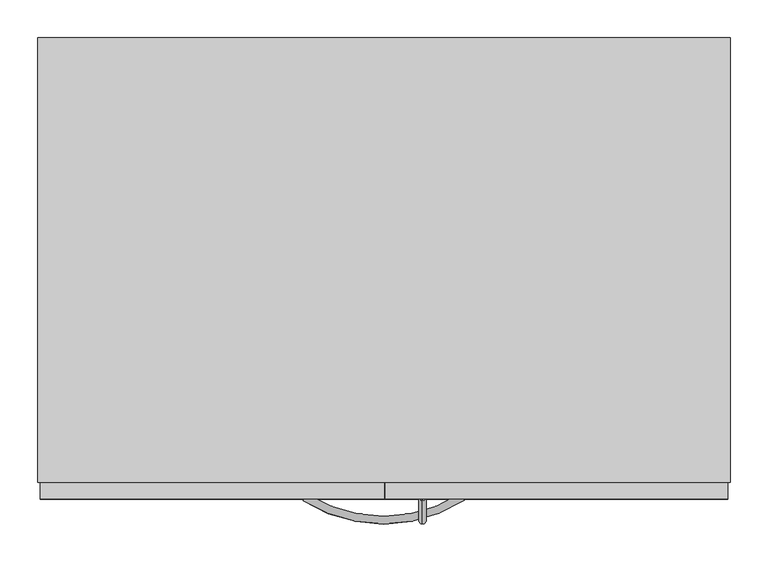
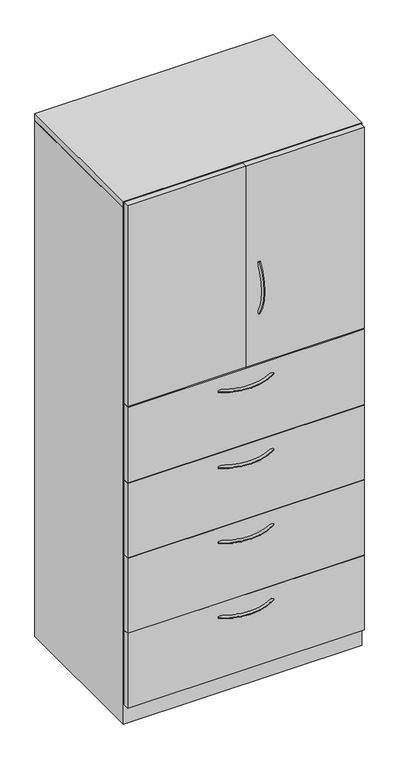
"""IFC4 building model written with IfcOpenShell, lengths in millimetres: furniture geometry, Steelcase - Universal Storage - Cabinet - Combination - Proud Steel : 83 1/2H - Hinged Doors/4 Drawers - 24D x 36W."""

import ifcopenshell
import ifcopenshell.guid

model = None  # the IFC model being written
_history = None  # IfcOwnerHistory: only IFC2X3 demands one
_inside = {}  # id of a spatial element -> (the spatial element, [elements in it])
_under = {}  # id of a project, library or spatial element -> (it, [spatial elements below it])
_declared = {}  # id of a project -> (the project, [libraries it declares])
_typed = {}  # id of a type object -> (the type object, [elements of that type])
_made_of = {}  # id of a material, layer set ... -> (it, [elements and type objects made of it])


def new_model(schema):
    """Start an empty IFC model of exactly this schema.

    Asked for "IFC4X3", IfcOpenShell would pick the latest addendum, in which some entities
    have other attributes; the version numbers below select the first issue.
    IFC2X3 requires an IfcOwnerHistory on every rooted entity: one is made here for all.
    """
    global model, _history
    if schema == "IFC4X3":
        model = ifcopenshell.file(schema_version=(4, 3, 0, 0))
    else:
        model = ifcopenshell.file(schema=schema)
    _inside.clear()
    _under.clear()
    _declared.clear()
    _typed.clear()
    _made_of.clear()
    _history = None
    if model.schema == "IFC2X3":
        org = make("IfcOrganization", Name="unknown")
        user = make(
            "IfcPersonAndOrganization",
            ThePerson=make("IfcPerson", FamilyName="unknown"),
            TheOrganization=org,
        )
        app = make(
            "IfcApplication",
            ApplicationDeveloper=org,
            Version="unknown",
            ApplicationFullName="unknown",
            ApplicationIdentifier="unknown",
        )
        _history = make(
            "IfcOwnerHistory",
            OwningUser=user,
            OwningApplication=app,
            ChangeAction="ADDED",
            CreationDate=0,
        )
    return model


def make(cls, **values):
    """One entity of the class cls with the attributes given. An attribute that is None is left unset."""
    return model.create_entity(
        cls, **{name: value for name, value in values.items() if value is not None}
    )


def rooted(cls, **values):
    """An entity with a GlobalId (a new one), such as an element, a storey or a relation."""
    return make(cls, GlobalId=ifcopenshell.guid.new(), OwnerHistory=_history, **values)


def si_unit(unit_type, name, prefix=None):
    """IfcSIUnit, for example si_unit("LENGTHUNIT", "METRE", prefix="MILLI")."""
    return make("IfcSIUnit", UnitType=unit_type, Prefix=prefix, Name=name)


def assignment(units):
    """IfcUnitAssignment: the units of a project."""
    return None if units is None else make("IfcUnitAssignment", Units=units)


def point(xyz):
    """IfcCartesianPoint."""
    return None if xyz is None else make("IfcCartesianPoint", Coordinates=xyz)


def direction(xyz):
    """IfcDirection."""
    return None if xyz is None else make("IfcDirection", DirectionRatios=xyz)


def frame(location, z_axis=None, x_axis=None):
    """IfcAxis2Placement3D, a coordinate frame: its origin and axes. An axis left out is left unset."""
    return make(
        "IfcAxis2Placement3D",
        Location=point(location),
        Axis=direction(z_axis),
        RefDirection=direction(x_axis),
    )


def origin():
    """The frame at (0, 0, 0) with its axes left unset."""
    return frame((0.0, 0.0, 0.0))


def place(relative_to, where):
    """IfcLocalPlacement: puts the frame where relative to a parent placement (None: the world)."""
    return make(
        "IfcLocalPlacement", PlacementRelTo=relative_to, RelativePlacement=where
    )


def context(
    kind, dimensions, precision=None, world=None, true_north=None, identifier=None
):
    """IfcGeometricRepresentationContext, for example the 3D "Model" context."""
    return make(
        "IfcGeometricRepresentationContext",
        ContextIdentifier=identifier,
        ContextType=kind,
        CoordinateSpaceDimension=dimensions,
        Precision=precision,
        WorldCoordinateSystem=world,
        TrueNorth=true_north,
    )


def project(units=None, contexts=None):
    """IfcProject with its units and contexts."""
    return rooted(
        "IfcProject",
        Name="project",
        RepresentationContexts=contexts,
        UnitsInContext=assignment(units),
    )


def spatial(cls, under=None, at=None, **own):
    """A site, building, storey or space (cls), placed at a placement, below another one or the project."""
    s = rooted(cls, ObjectPlacement=at, **own)
    if under is not None:
        _under.setdefault(under.id(), (under, []))[1].append(s)
    return s


def polyline(points):
    """IfcPolyline through the points."""
    return make("IfcPolyline", Points=[point(p) for p in points])


def circle_curve(where, radius):
    """IfcCircle in the frame where."""
    return make("IfcCircle", Position=where, Radius=radius)


def ellipse_curve(where, semi_axis1, semi_axis2):
    """IfcEllipse in the frame where."""
    return make(
        "IfcEllipse", Position=where, SemiAxis1=semi_axis1, SemiAxis2=semi_axis2
    )


def trimmed(basis, trim1, trim2, sense, master):
    """IfcTrimmedCurve: the piece of a basis curve between two trims."""
    return make(
        "IfcTrimmedCurve",
        BasisCurve=basis,
        Trim1=trim1,
        Trim2=trim2,
        SenseAgreement=sense,
        MasterRepresentation=master,
    )


def outline(outer, holes=None, kind="AREA"):
    """IfcArbitraryClosedProfileDef: a profile drawn as a closed curve; with holes, ...WithVoids."""
    if holes is None:
        return make("IfcArbitraryClosedProfileDef", ProfileType=kind, OuterCurve=outer)
    return make(
        "IfcArbitraryProfileDefWithVoids",
        ProfileType=kind,
        OuterCurve=outer,
        InnerCurves=holes,
    )


def extrude(swept, where, along, depth):
    """IfcExtrudedAreaSolid: the profile swept, set in the frame where, extruded along a direction by depth."""
    return make(
        "IfcExtrudedAreaSolid",
        SweptArea=swept,
        Position=where,
        ExtrudedDirection=direction(along),
        Depth=depth,
    )


def faces_of(points, faces, orient=None, outer=None):
    """IfcFace entities. A face is a list of loops; a loop is a list of indices into points, from 0.

    orient and outer hold one flag for each loop. By default every Orientation is true, the
    first loop of a face is its IfcFaceOuterBound and the others are IfcFaceBound.
    """
    made = []
    for i, loops in enumerate(faces):
        bounds = []
        for j, loop in enumerate(loops):
            is_outer = j == 0 if outer is None else outer[i][j]
            bounds.append(
                make(
                    "IfcFaceOuterBound" if is_outer else "IfcFaceBound",
                    Bound=make("IfcPolyLoop", Polygon=[points[k] for k in loop]),
                    Orientation=True if orient is None else orient[i][j],
                )
            )
        made.append(make("IfcFace", Bounds=bounds))
    return made


def faceted_brep(points, faces, orient=None, outer=None, voids=None):
    """IfcFacetedBrep: a solid bounded by flat faces; with voids (closed shells), ...WithVoids."""
    shared = [point(p) for p in points]
    hull = make("IfcClosedShell", CfsFaces=faces_of(shared, faces, orient, outer))
    if voids is None:
        return make("IfcFacetedBrep", Outer=hull)
    return make(
        "IfcFacetedBrepWithVoids",
        Outer=hull,
        Voids=[
            make(cls, CfsFaces=faces_of(shared, fs, o, b)) for cls, fs, o, b in voids
        ],
    )


def shape(context_of_items, identifier, shape_type, items):
    """IfcShapeRepresentation: the items that make up one representation, for example the "Body"."""
    return make(
        "IfcShapeRepresentation",
        ContextOfItems=context_of_items,
        RepresentationIdentifier=identifier,
        RepresentationType=shape_type,
        Items=items,
    )


def source(mapping_origin, context_of_items, identifier, shape_type, items):
    """IfcRepresentationMap: a shape defined once, which mapped items show again and again."""
    return make(
        "IfcRepresentationMap",
        MappingOrigin=mapping_origin,
        MappedRepresentation=shape(context_of_items, identifier, shape_type, items),
    )


def transform(
    local_origin,
    x_axis=None,
    y_axis=None,
    z_axis=None,
    scale=None,
    scale2=None,
    scale3=None,
    uniform=True,
):
    """IfcCartesianTransformationOperator3D, or its non-uniform kind. x_axis, y_axis, z_axis: its Axis1, 2, 3."""
    if uniform:
        return make(
            "IfcCartesianTransformationOperator3D",
            Axis1=direction(x_axis),
            Axis2=direction(y_axis),
            LocalOrigin=point(local_origin),
            Scale=scale,
            Axis3=direction(z_axis),
        )
    return make(
        "IfcCartesianTransformationOperator3DnonUniform",
        Axis1=direction(x_axis),
        Axis2=direction(y_axis),
        LocalOrigin=point(local_origin),
        Scale=scale,
        Axis3=direction(z_axis),
        Scale2=scale2,
        Scale3=scale3,
    )


def mapped(mapping_source, mapping_target):
    """IfcMappedItem: shows the shape of a source again, moved by a transform."""
    return make(
        "IfcMappedItem", MappingSource=mapping_source, MappingTarget=mapping_target
    )


def made_of(thing, what):
    """Note that an element or type object is made of a material, layer set ...; save() writes the relation."""
    if what is not None:
        _made_of.setdefault(what.id(), (what, []))[1].append(thing)
    return thing


def element(
    cls,
    number,
    at=None,
    inside=None,
    cuts=None,
    type_object=None,
    material=None,
    context=None,
    identifier="Body",
    shape_type=None,
    held_by="IfcProductDefinitionShape",
    body=None,
    shapes=None,
    **own,
):
    """One element of the class cls, such as IfcWall. Its Tag is "e" and its number.

    at: its placement. inside: the storey or other place that contains it. cuts: it is an
    opening in that element (IfcRelVoidsElement). A single representation is given by context,
    identifier, shape_type and body (its items); several are given by shapes. held_by: the class
    of the entity that holds the representations. save() writes the other relations.
    """
    e = rooted(cls, Tag="e%d" % number, ObjectPlacement=at, **own)
    if body is not None:
        shapes = [shape(context, identifier, shape_type, body)]
    if shapes is not None:
        e.Representation = make(held_by, Representations=shapes)
    if inside is not None:
        _inside.setdefault(inside.id(), (inside, []))[1].append(e)
    if cuts is not None:
        rooted(
            "IfcRelVoidsElement", RelatingBuildingElement=cuts, RelatedOpeningElement=e
        )
    if type_object is not None:
        _typed.setdefault(type_object.id(), (type_object, []))[1].append(e)
    return made_of(e, material)


def aggregate(whole, parts):
    """IfcRelAggregates: a whole, such as a stair, and the parts it consists of."""
    return rooted("IfcRelAggregates", RelatingObject=whole, RelatedObjects=parts)


def save(model, path):
    """Write the relations noted so far, then the file.

    IfcRelAggregates (storeys below a building ...), IfcRelContainedInSpatialStructure (elements
    in a storey), IfcRelDefinesByType, IfcRelAssociatesMaterial and IfcRelDeclares: one each for
    every whole, place, type object, material and project.
    """
    for whole, parts in _under.values():
        aggregate(whole, parts)
    for where, things in _inside.values():
        rooted(
            "IfcRelContainedInSpatialStructure",
            RelatedElements=things,
            RelatingStructure=where,
        )
    for kind, things in _typed.values():
        rooted("IfcRelDefinesByType", RelatedObjects=things, RelatingType=kind)
    for what, things in _made_of.values():
        rooted("IfcRelAssociatesMaterial", RelatedObjects=things, RelatingMaterial=what)
    for by, libraries in _declared.values():
        rooted("IfcRelDeclares", RelatingContext=by, RelatedDefinitions=libraries)
    model.write(path)


def plane_surface(at):
    """IfcPlane: the flat surface through the origin of the frame at, square to its z axis."""
    return make("IfcPlane", Position=at)


def revolved_surface(curve, axis_point, axis_direction):
    """IfcSurfaceOfRevolution: the curve turned about the line through axis_point along axis_direction."""
    return make(
        "IfcSurfaceOfRevolution",
        SweptCurve=make("IfcArbitraryOpenProfileDef", ProfileType="CURVE", Curve=curve),
        AxisPosition=make("IfcAxis1Placement", Location=point(axis_point), Axis=direction(axis_direction)),
    )


def advanced_brep(points, edges, surfaces, faces):
    """IfcAdvancedBrep: a solid bounded by faces that lie on surfaces and meet in shared edges.

    An edge is (start, end): straight between two places in points (the first is 0);
    or (start, end, curve); or (start, end, curve, False) where it runs against its curve.
    A face is (place in surfaces, loops), or (place, loops, False) where it looks against
    its surface's normal. A loop lists edges by number (the first is 1), with a minus sign
    where the edge is run from its end to its start. The first loop is the outer one.
    """
    corners = [point(p) for p in points]
    vertices = [make("IfcVertexPoint", VertexGeometry=c) for c in corners]
    made = []
    for start, end, *more in edges:
        made.append(
            make(
                "IfcEdgeCurve",
                EdgeStart=vertices[start],
                EdgeEnd=vertices[end],
                EdgeGeometry=more[0] if more else make("IfcPolyline", Points=[corners[start], corners[end]]),
                SameSense=more[1] if len(more) > 1 else True,
            )
        )
    hull = []
    for where, loops, *sense in faces:
        bounds = []
        for j, loop in enumerate(loops):
            ring = [make("IfcOrientedEdge", EdgeElement=made[abs(k) - 1], Orientation=k > 0) for k in loop]
            bounds.append(
                make(
                    "IfcFaceOuterBound" if j == 0 else "IfcFaceBound",
                    Bound=make("IfcEdgeLoop", EdgeList=ring),
                    Orientation=True,
                )
            )
        hull.append(make("IfcAdvancedFace", Bounds=bounds, FaceSurface=surfaces[where], SameSense=sense[0] if sense else True))
    return make("IfcAdvancedBrep", Outer=make("IfcClosedShell", CfsFaces=hull))


def furniture_f2b0f2a2(model_context):
    return source(origin(), model_context, "Body", "SolidModel", [
        extrude(outline(polyline([(911.2225413, -479.552), (3.1725353, -479.552), (3.1725353, -457.3261219), (911.2225413, -457.3261219), (911.2225413, -479.552)])), frame((0.0, 0.0, 77.724), z_axis=(0.0, 0.0, 1.0), x_axis=(1.0, 0.0, 0.0)), (0.0, 0.0, 1.0), 303.276),
        extrude(outline(polyline([(911.2225413, -479.552), (3.1725353, -479.552), (3.1725353, -457.3261219), (911.2225413, -457.3261219), (911.2225413, -479.552)])), frame((0.0, 0.0, 382.524), z_axis=(0.0, 0.0, 1.0), x_axis=(1.0, 0.0, 0.0)), (0.0, 0.0, 1.0), 303.276),
        extrude(outline(polyline([(911.2225413, -479.552), (3.1725353, -479.552), (3.1725353, -457.3261219), (911.2225413, -457.3261219), (911.2225413, -479.552)])), frame((0.0, 0.0, 687.3240349), z_axis=(0.0, 0.0, 1.0), x_axis=(1.0, 0.0, 0.0)), (0.0, 0.0, 1.0), 303.2759651),
        extrude(outline(polyline([(911.2225413, -479.552), (3.1725353, -479.552), (3.1725353, -457.3261219), (911.2225413, -457.3261219), (911.2225413, -479.552)])), frame((0.0, 0.0, 992.1240349), z_axis=(0.0, 0.0, 1.0), x_axis=(1.0, 0.0, 0.0)), (0.0, 0.0, 1.0), 306.4509893),
        extrude(outline(polyline([(457.2, -479.552), (3.1725353, -479.552), (3.1725353, -457.3261219), (457.2, -457.3261219), (457.2, -479.552)])), frame((0.0, 0.0, 1302.3862596), z_axis=(0.0, 0.0, 1.0), x_axis=(1.0, 0.0, 0.0)), (0.0, 0.0, 1.0), 815.34),
        extrude(outline(polyline([(911.2225413, -479.552), (458.7239992, -479.552), (458.7239992, -457.3261219), (911.2225413, -457.3261219), (911.2225413, -479.552)])), frame((0.0, 0.0, 1302.3862596), z_axis=(0.0, 0.0, 1.0), x_axis=(1.0, 0.0, 0.0)), (0.0, 0.0, 1.0), 815.34),
        advanced_brep(
        [(507.9682496, -481.5705994, 1714.523666), (507.9682496, -473.0108019, 1709.0505073), (507.9682496, -481.1337636, 1502.2167456), (507.9682496, -472.5965612, 1507.7250825)],
        [
            (0, 1, circle_curve(frame((507.9682496, -477.2907007, 1711.7870866), z_axis=(0.0, 0.5386967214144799, 0.842499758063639), x_axis=(0.0, 0.842499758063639, -0.5386967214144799)), 5.08)),
            (1, 0, circle_curve(frame((507.9682496, -477.2907007, 1711.7870866), z_axis=(0.0, 0.5386967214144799, 0.842499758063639), x_axis=(0.0, 0.842499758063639, -0.5386967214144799)), 5.08)),
            (2, 3, circle_curve(frame((507.9682496, -476.8651624, 1504.9709141), z_axis=(0.0, 0.5421591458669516, -0.8402758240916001), x_axis=(0.0, 0.8402758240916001, 0.5421591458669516)), 5.08)),
            (3, 2, circle_curve(frame((507.9682496, -476.8651624, 1504.9709141), z_axis=(0.0, 0.5421591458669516, -0.8402758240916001), x_axis=(0.0, 0.8402758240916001, 0.5421591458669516)), 5.08)),
            (3, 1, circle_curve(frame((507.9682496, -316.0827352, 1608.7102589), z_axis=(-1.0, 0.0, 0.0), x_axis=(0.0, -0.8424997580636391, 0.5386967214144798)), 186.2648211)),
            (0, 2, circle_curve(frame((507.9682496, -316.0827352, 1608.7102589), z_axis=(1.0, 0.0, 0.0), x_axis=(0.0, -0.8424997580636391, 0.5386967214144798)), 196.4248211)),
        ],
        [
            plane_surface(frame((508.7619996, -476.6365286, 1711.3688072), z_axis=(0.0, 0.5386967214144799, 0.8424997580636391), x_axis=(1.0, 0.0, 0.0))),
            plane_surface(frame((508.7619996, -476.2127171, 1505.391882), z_axis=(0.0, 0.5421591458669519, -0.8402758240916), x_axis=(1.0, 0.0, 0.0))),
            revolved_surface(trimmed(ellipse_curve(frame((507.9682496, -477.2907007, 1711.7870866), z_axis=(0.0, 0.5386967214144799, 0.842499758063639), x_axis=(0.0, 0.842499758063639, -0.5386967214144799)), 5.08, 5.08), [point((507.9682496, -481.5705994, 1714.523666))], [point((507.9682496, -473.0108019, 1709.0505073))], True, "CARTESIAN"), (508.7619996, -316.0827352, 1608.7102589), (1.0, 0.0, 0.0)),
            revolved_surface(trimmed(ellipse_curve(frame((507.9682496, -477.2907007, 1711.7870866), z_axis=(0.0, 0.5386967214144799, 0.842499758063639), x_axis=(0.0, 0.842499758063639, -0.5386967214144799)), 5.08, 5.08), [point((507.9682496, -473.0108019, 1709.0505073))], [point((507.9682496, -481.5705994, 1714.523666))], True, "CARTESIAN"), (508.7619996, -316.0827352, 1608.7102589), (1.0, 0.0, 0.0)),
        ],
        [
            (0, [[1, 2]]),
            (1, [[3, 4]]),
            (2, [[5, -1, 6, -4]]),
            (3, [[-6, -2, -5, -3]]),
        ],
    ),
        advanced_brep(
        [(350.6245932, -481.5705994, 1240.6312742), (356.0977519, -473.0108019, 1240.6312742), (562.9315136, -481.1337636, 1240.6312742), (557.4231767, -472.5965612, 1240.6312742)],
        [
            (0, 1, circle_curve(frame((353.3611726, -477.2907007, 1240.6312742), z_axis=(-0.8424997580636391, 0.5386967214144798, 0.0), x_axis=(0.5386967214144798, 0.8424997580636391, 0.0)), 5.08)),
            (1, 0, circle_curve(frame((353.3611726, -477.2907007, 1240.6312742), z_axis=(-0.8424997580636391, 0.5386967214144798, 0.0), x_axis=(0.5386967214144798, 0.8424997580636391, 0.0)), 5.08)),
            (2, 3, circle_curve(frame((560.1773452, -476.8651624, 1240.6312742), z_axis=(0.8402758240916, 0.5421591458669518, 0.0), x_axis=(-0.5421591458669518, 0.8402758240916, 0.0)), 5.08)),
            (3, 2, circle_curve(frame((560.1773452, -476.8651624, 1240.6312742), z_axis=(0.8402758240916, 0.5421591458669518, 0.0), x_axis=(-0.5421591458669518, 0.8402758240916, 0.0)), 5.08)),
            (3, 1, circle_curve(frame((456.4380004, -316.0827352, 1240.6312742), z_axis=(0.0, 0.0, -1.0), x_axis=(-0.5386967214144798, -0.8424997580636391, 0.0)), 186.2648211)),
            (0, 2, circle_curve(frame((456.4380004, -316.0827352, 1240.6312742), z_axis=(0.0, 0.0, 1.0), x_axis=(-0.5386967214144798, -0.8424997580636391, 0.0)), 196.4248211)),
        ],
        [
            plane_surface(frame((353.7794521, -476.6365286, 1241.4250242), z_axis=(-0.8424997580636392, 0.5386967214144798, 0.0), x_axis=(0.0, 0.0, 1.0))),
            plane_surface(frame((559.7563772, -476.2127171, 1241.4250242), z_axis=(0.8402758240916, 0.5421591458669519, 0.0), x_axis=(0.0, 0.0, 1.0))),
            revolved_surface(trimmed(ellipse_curve(frame((353.3611726, -477.2907007, 1240.6312742), z_axis=(-0.8424997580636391, 0.5386967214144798, 0.0), x_axis=(0.5386967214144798, 0.8424997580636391, 0.0)), 5.08, 5.08), [point((350.6245932, -481.5705994, 1240.6312742))], [point((356.0977519, -473.0108019, 1240.6312742))], True, "CARTESIAN"), (456.4380004, -316.0827352, 1241.4250242), (0.0, 0.0, 1.0)),
            revolved_surface(trimmed(ellipse_curve(frame((353.3611726, -477.2907007, 1240.6312742), z_axis=(-0.8424997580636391, 0.5386967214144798, 0.0), x_axis=(0.5386967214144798, 0.8424997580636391, 0.0)), 5.08, 5.08), [point((356.0977519, -473.0108019, 1240.6312742))], [point((350.6245932, -481.5705994, 1240.6312742))], True, "CARTESIAN"), (456.4380004, -316.0827352, 1241.4250242), (0.0, 0.0, 1.0)),
        ],
        [
            (0, [[1, 2]]),
            (1, [[3, 4]]),
            (2, [[5, -1, 6, -4]]),
            (3, [[-6, -2, -5, -3]]),
        ],
    ),
        advanced_brep(
        [(350.6245932, -481.5705994, 323.56425), (356.0977519, -473.0108019, 323.56425), (562.9315136, -481.1337636, 323.56425), (557.4231767, -472.5965612, 323.56425)],
        [
            (0, 1, circle_curve(frame((353.3611726, -477.2907007, 323.56425), z_axis=(-0.8424997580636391, 0.5386967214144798, 0.0), x_axis=(0.5386967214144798, 0.8424997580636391, 0.0)), 5.08)),
            (1, 0, circle_curve(frame((353.3611726, -477.2907007, 323.56425), z_axis=(-0.8424997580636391, 0.5386967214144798, 0.0), x_axis=(0.5386967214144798, 0.8424997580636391, 0.0)), 5.08)),
            (2, 3, circle_curve(frame((560.1773452, -476.8651624, 323.56425), z_axis=(0.8402758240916, 0.5421591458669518, 0.0), x_axis=(-0.5421591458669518, 0.8402758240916, 0.0)), 5.08)),
            (3, 2, circle_curve(frame((560.1773452, -476.8651624, 323.56425), z_axis=(0.8402758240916, 0.5421591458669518, 0.0), x_axis=(-0.5421591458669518, 0.8402758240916, 0.0)), 5.08)),
            (3, 1, circle_curve(frame((456.4380004, -316.0827352, 323.56425), z_axis=(0.0, 0.0, -1.0), x_axis=(-0.5386967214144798, -0.8424997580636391, 0.0)), 186.2648211)),
            (0, 2, circle_curve(frame((456.4380004, -316.0827352, 323.56425), z_axis=(0.0, 0.0, 1.0), x_axis=(-0.5386967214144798, -0.8424997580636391, 0.0)), 196.4248211)),
        ],
        [
            plane_surface(frame((353.7794521, -476.6365286, 324.358), z_axis=(-0.8424997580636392, 0.5386967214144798, 0.0), x_axis=(0.0, 0.0, 1.0))),
            plane_surface(frame((559.7563772, -476.2127171, 324.358), z_axis=(0.8402758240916, 0.5421591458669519, 0.0), x_axis=(0.0, 0.0, 1.0))),
            revolved_surface(trimmed(ellipse_curve(frame((353.3611726, -477.2907007, 323.56425), z_axis=(-0.8424997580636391, 0.5386967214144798, 0.0), x_axis=(0.5386967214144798, 0.8424997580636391, 0.0)), 5.08, 5.08), [point((350.6245932, -481.5705994, 323.56425))], [point((356.0977519, -473.0108019, 323.56425))], True, "CARTESIAN"), (456.4380004, -316.0827352, 324.358), (0.0, 0.0, 1.0)),
            revolved_surface(trimmed(ellipse_curve(frame((353.3611726, -477.2907007, 323.56425), z_axis=(-0.8424997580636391, 0.5386967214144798, 0.0), x_axis=(0.5386967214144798, 0.8424997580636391, 0.0)), 5.08, 5.08), [point((356.0977519, -473.0108019, 323.56425))], [point((350.6245932, -481.5705994, 323.56425))], True, "CARTESIAN"), (456.4380004, -316.0827352, 324.358), (0.0, 0.0, 1.0)),
        ],
        [
            (0, [[1, 2]]),
            (1, [[3, 4]]),
            (2, [[5, -1, 6, -4]]),
            (3, [[-6, -2, -5, -3]]),
        ],
    ),
        advanced_brep(
        [(350.6245932, -481.5705994, 627.85625), (356.0977519, -473.0108019, 627.85625), (562.9315136, -481.1337636, 627.85625), (557.4231767, -472.5965612, 627.85625)],
        [
            (0, 1, circle_curve(frame((353.3611726, -477.2907007, 627.85625), z_axis=(-0.8424997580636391, 0.5386967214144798, 0.0), x_axis=(0.5386967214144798, 0.8424997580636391, 0.0)), 5.08)),
            (1, 0, circle_curve(frame((353.3611726, -477.2907007, 627.85625), z_axis=(-0.8424997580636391, 0.5386967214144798, 0.0), x_axis=(0.5386967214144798, 0.8424997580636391, 0.0)), 5.08)),
            (2, 3, circle_curve(frame((560.1773452, -476.8651624, 627.85625), z_axis=(0.8402758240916, 0.5421591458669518, 0.0), x_axis=(-0.5421591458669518, 0.8402758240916, 0.0)), 5.08)),
            (3, 2, circle_curve(frame((560.1773452, -476.8651624, 627.85625), z_axis=(0.8402758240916, 0.5421591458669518, 0.0), x_axis=(-0.5421591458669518, 0.8402758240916, 0.0)), 5.08)),
            (3, 1, circle_curve(frame((456.4380004, -316.0827352, 627.85625), z_axis=(0.0, 0.0, -1.0), x_axis=(-0.5386967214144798, -0.8424997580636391, 0.0)), 186.2648211)),
            (0, 2, circle_curve(frame((456.4380004, -316.0827352, 627.85625), z_axis=(0.0, 0.0, 1.0), x_axis=(-0.5386967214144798, -0.8424997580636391, 0.0)), 196.4248211)),
        ],
        [
            plane_surface(frame((353.7794521, -476.6365286, 628.65), z_axis=(-0.8424997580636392, 0.5386967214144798, 0.0), x_axis=(0.0, 0.0, 1.0))),
            plane_surface(frame((559.7563772, -476.2127171, 628.65), z_axis=(0.8402758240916, 0.5421591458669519, 0.0), x_axis=(0.0, 0.0, 1.0))),
            revolved_surface(trimmed(ellipse_curve(frame((353.3611726, -477.2907007, 627.85625), z_axis=(-0.8424997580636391, 0.5386967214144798, 0.0), x_axis=(0.5386967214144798, 0.8424997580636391, 0.0)), 5.08, 5.08), [point((350.6245932, -481.5705994, 627.85625))], [point((356.0977519, -473.0108019, 627.85625))], True, "CARTESIAN"), (456.4380004, -316.0827352, 628.65), (0.0, 0.0, 1.0)),
            revolved_surface(trimmed(ellipse_curve(frame((353.3611726, -477.2907007, 627.85625), z_axis=(-0.8424997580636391, 0.5386967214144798, 0.0), x_axis=(0.5386967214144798, 0.8424997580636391, 0.0)), 5.08, 5.08), [point((356.0977519, -473.0108019, 627.85625))], [point((350.6245932, -481.5705994, 627.85625))], True, "CARTESIAN"), (456.4380004, -316.0827352, 628.65), (0.0, 0.0, 1.0)),
        ],
        [
            (0, [[1, 2]]),
            (1, [[3, 4]]),
            (2, [[5, -1, 6, -4]]),
            (3, [[-6, -2, -5, -3]]),
        ],
    ),
        advanced_brep(
        [(350.6245932, -481.5705994, 932.65625), (356.0977519, -473.0108019, 932.65625), (562.9315136, -481.1337636, 932.65625), (557.4231767, -472.5965612, 932.65625)],
        [
            (0, 1, circle_curve(frame((353.3611726, -477.2907007, 932.65625), z_axis=(-0.8424997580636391, 0.5386967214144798, 0.0), x_axis=(0.5386967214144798, 0.8424997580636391, 0.0)), 5.08)),
            (1, 0, circle_curve(frame((353.3611726, -477.2907007, 932.65625), z_axis=(-0.8424997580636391, 0.5386967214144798, 0.0), x_axis=(0.5386967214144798, 0.8424997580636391, 0.0)), 5.08)),
            (2, 3, circle_curve(frame((560.1773452, -476.8651624, 932.65625), z_axis=(0.8402758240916, 0.5421591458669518, 0.0), x_axis=(-0.5421591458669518, 0.8402758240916, 0.0)), 5.08)),
            (3, 2, circle_curve(frame((560.1773452, -476.8651624, 932.65625), z_axis=(0.8402758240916, 0.5421591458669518, 0.0), x_axis=(-0.5421591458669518, 0.8402758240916, 0.0)), 5.08)),
            (3, 1, circle_curve(frame((456.4380004, -316.0827352, 932.65625), z_axis=(0.0, 0.0, -1.0), x_axis=(-0.5386967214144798, -0.8424997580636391, 0.0)), 186.2648211)),
            (0, 2, circle_curve(frame((456.4380004, -316.0827352, 932.65625), z_axis=(0.0, 0.0, 1.0), x_axis=(-0.5386967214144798, -0.8424997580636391, 0.0)), 196.4248211)),
        ],
        [
            plane_surface(frame((353.7794521, -476.6365286, 933.45), z_axis=(-0.8424997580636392, 0.5386967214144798, 0.0), x_axis=(0.0, 0.0, 1.0))),
            plane_surface(frame((559.7563772, -476.2127171, 933.45), z_axis=(0.8402758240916, 0.5421591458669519, 0.0), x_axis=(0.0, 0.0, 1.0))),
            revolved_surface(trimmed(ellipse_curve(frame((353.3611726, -477.2907007, 932.65625), z_axis=(-0.8424997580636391, 0.5386967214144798, 0.0), x_axis=(0.5386967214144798, 0.8424997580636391, 0.0)), 5.08, 5.08), [point((350.6245932, -481.5705994, 932.65625))], [point((356.0977519, -473.0108019, 932.65625))], True, "CARTESIAN"), (456.4380004, -316.0827352, 933.45), (0.0, 0.0, 1.0)),
            revolved_surface(trimmed(ellipse_curve(frame((353.3611726, -477.2907007, 932.65625), z_axis=(-0.8424997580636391, 0.5386967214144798, 0.0), x_axis=(0.5386967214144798, 0.8424997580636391, 0.0)), 5.08, 5.08), [point((356.0977519, -473.0108019, 932.65625))], [point((350.6245932, -481.5705994, 932.65625))], True, "CARTESIAN"), (456.4380004, -316.0827352, 933.45), (0.0, 0.0, 1.0)),
        ],
        [
            (0, [[1, 2]]),
            (1, [[3, 4]]),
            (2, [[5, -1, 6, -4]]),
            (3, [[-6, -2, -5, -3]]),
        ],
    ),
        faceted_brep([(25.4000008, -457.3261219, 76.2), (889.0000242, -457.3261219, 76.2), (889.0000242, 104.6479992, 76.2), (25.4000008, 104.6479992, 76.2), (914.4, 130.048, 0.0), (914.4, -457.3261219, 0.0), (0.0, -457.3261219, 0.0), (0.0, 130.048, 0.0), (0.0, 130.048, 2093.976), (914.4, 130.048, 2093.976), (0.0, -457.3261219, 2093.976), (914.4, -457.3261219, 2093.976), (889.0000242, -457.3261219, 2093.976), (25.4000008, -457.3261219, 2093.976), (889.0000242, 104.6479992, 2093.976), (25.4000008, 104.6479992, 2093.976)], [[[0, 1, 2, 3]], [[4, 5, 6, 7]], [[4, 7, 8, 9]], [[8, 7, 6, 10]], [[10, 6, 5, 11, 12, 1, 0, 13]], [[11, 5, 4, 9]], [[14, 12, 11, 9, 8, 10, 13, 15]], [[12, 14, 2, 1]], [[15, 13, 0, 3]], [[14, 15, 3, 2]]]),
        extrude(outline(polyline([(914.4, 130.048), (914.4, -457.3261219), (0.0, -457.3261219), (0.0, 130.048), (914.4, 130.048)])), frame((0.0, 0.0, 2095.4999516), z_axis=(0.0, 0.0, 1.0), x_axis=(1.0, 0.0, 0.0)), (0.0, 0.0, 1.0), 25.4000484),
    ])


if __name__ == "__main__":
    model = new_model("IFC4")
    model_context = context("Model", 3, world=origin())
    ifc_project = project(units=[si_unit("LENGTHUNIT", "METRE", prefix="MILLI")], contexts=[model_context])
    site = spatial("IfcSite", under=ifc_project)
    building = spatial("IfcBuilding", under=site)
    placement = place(None, origin())
    furniture_shape = furniture_f2b0f2a2(model_context)
    element("IfcFurniture", 1, ObjectType="Steelcase - Universal Storage - Cabinet - Combination - Proud Steel : 83 1/2H - Hinged Doors/4 Drawers - 24D x 36W", at=placement, inside=building, context=model_context, shape_type="MappedRepresentation", body=[
        mapped(furniture_shape, transform((0.0, 0.0, 0.0), x_axis=(1.0, 0.0, 0.0), y_axis=(0.0, 1.0, 0.0), z_axis=(0.0, 0.0, 1.0))),
    ])
    save(model, "model.ifc")
